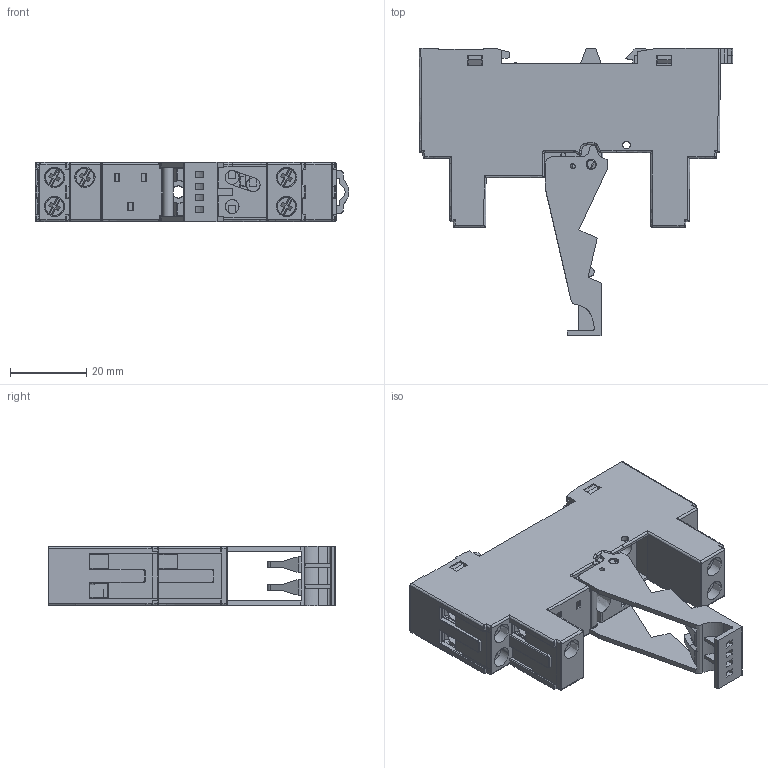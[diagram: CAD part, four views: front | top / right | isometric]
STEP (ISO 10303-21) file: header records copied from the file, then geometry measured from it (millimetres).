
FILE_DESCRIPTION(('STEP AP214'),'2;1');
FILE_NAME('95833_with_095913 - 30 marzo.stp','2021-03-30T16:56:14',(''),(''),'2007.1.106','THINKDESIGN','');
FILE_SCHEMA(('AUTOMOTIVE_DESIGN'));
Length unit declared in the file: millimetre
Products named in the file (1): top
Bounding box: 82.09 x 75.11 x 15.5 mm (x, y, z)
Surface area: 25702.7 mm2 (no closed solid volume)
Topology: 0 solids, 0 shells, 902 faces, 5225 edges, 5181 vertices
Faces by surface type: bspline 902
Entity records: 38406 total; most frequent: CARTESIAN_POINT 25363, COMPOSITE_CURVE_SEGMENT 5181, QUASI_UNIFORM_CURVE 3502, B_SPLINE_CURVE_WITH_KNOTS 910, OUTER_BOUNDARY_CURVE 902, CURVE_BOUNDED_SURFACE 902, STYLED_ITEM 902, B_SPLINE_SURFACE_WITH_KNOTS 641
